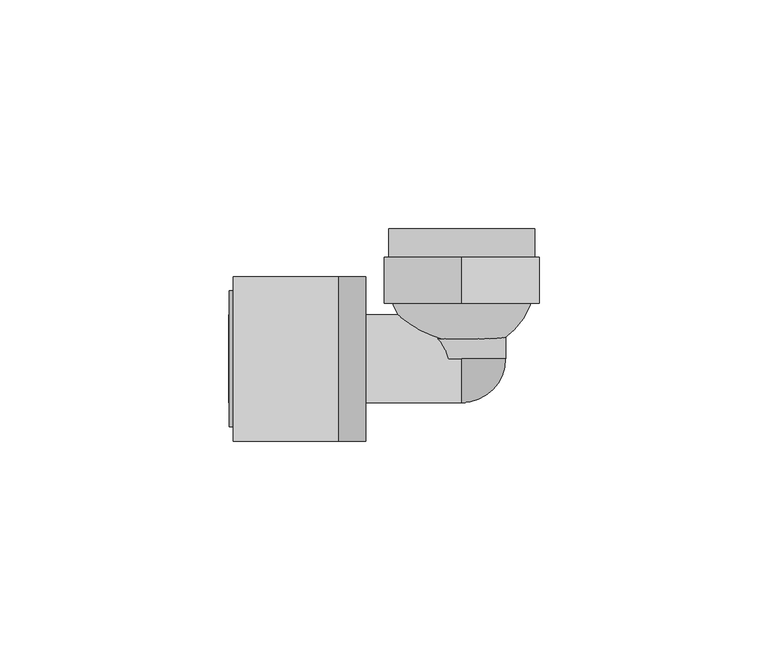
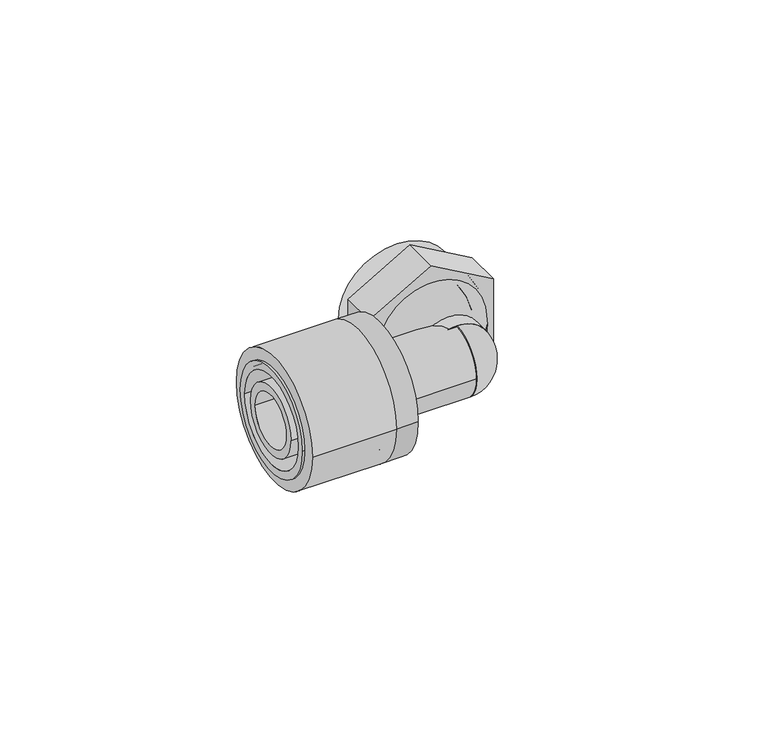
"""IFC4 building model written with IfcOpenShell, lengths in millimetres: pipe fitting geometry, FASTLOC_Elbow with female thread EX+ : FSL A internal AT."""

import ifcopenshell
import ifcopenshell.guid

model = None  # the IFC model being written
_history = None  # IfcOwnerHistory: only IFC2X3 demands one
_inside = {}  # id of a spatial element -> (the spatial element, [elements in it])
_under = {}  # id of a project, library or spatial element -> (it, [spatial elements below it])
_declared = {}  # id of a project -> (the project, [libraries it declares])
_typed = {}  # id of a type object -> (the type object, [elements of that type])
_made_of = {}  # id of a material, layer set ... -> (it, [elements and type objects made of it])


def new_model(schema):
    """Start an empty IFC model of exactly this schema.

    Asked for "IFC4X3", IfcOpenShell would pick the latest addendum, in which some entities
    have other attributes; the version numbers below select the first issue.
    IFC2X3 requires an IfcOwnerHistory on every rooted entity: one is made here for all.
    """
    global model, _history
    if schema == "IFC4X3":
        model = ifcopenshell.file(schema_version=(4, 3, 0, 0))
    else:
        model = ifcopenshell.file(schema=schema)
    _inside.clear()
    _under.clear()
    _declared.clear()
    _typed.clear()
    _made_of.clear()
    _history = None
    if model.schema == "IFC2X3":
        org = make("IfcOrganization", Name="unknown")
        user = make(
            "IfcPersonAndOrganization",
            ThePerson=make("IfcPerson", FamilyName="unknown"),
            TheOrganization=org,
        )
        app = make(
            "IfcApplication",
            ApplicationDeveloper=org,
            Version="unknown",
            ApplicationFullName="unknown",
            ApplicationIdentifier="unknown",
        )
        _history = make(
            "IfcOwnerHistory",
            OwningUser=user,
            OwningApplication=app,
            ChangeAction="ADDED",
            CreationDate=0,
        )
    return model


def make(cls, **values):
    """One entity of the class cls with the attributes given. An attribute that is None is left unset."""
    return model.create_entity(
        cls, **{name: value for name, value in values.items() if value is not None}
    )


def rooted(cls, **values):
    """An entity with a GlobalId (a new one), such as an element, a storey or a relation."""
    return make(cls, GlobalId=ifcopenshell.guid.new(), OwnerHistory=_history, **values)


def si_unit(unit_type, name, prefix=None):
    """IfcSIUnit, for example si_unit("LENGTHUNIT", "METRE", prefix="MILLI")."""
    return make("IfcSIUnit", UnitType=unit_type, Prefix=prefix, Name=name)


def assignment(units):
    """IfcUnitAssignment: the units of a project."""
    return None if units is None else make("IfcUnitAssignment", Units=units)


def point(xyz):
    """IfcCartesianPoint."""
    return None if xyz is None else make("IfcCartesianPoint", Coordinates=xyz)


def direction(xyz):
    """IfcDirection."""
    return None if xyz is None else make("IfcDirection", DirectionRatios=xyz)


def frame(location, z_axis=None, x_axis=None):
    """IfcAxis2Placement3D, a coordinate frame: its origin and axes. An axis left out is left unset."""
    return make(
        "IfcAxis2Placement3D",
        Location=point(location),
        Axis=direction(z_axis),
        RefDirection=direction(x_axis),
    )


def frame_2d(location, x_axis=None):
    """IfcAxis2Placement2D, a coordinate frame in the plane: its origin and x axis."""
    return make(
        "IfcAxis2Placement2D", Location=point(location), RefDirection=direction(x_axis)
    )


def origin():
    """The frame at (0, 0, 0) with its axes left unset."""
    return frame((0.0, 0.0, 0.0))


def origin_2d():
    """The frame at (0, 0) in the plane with its x axis left unset."""
    return frame_2d((0.0, 0.0))


def place(relative_to, where):
    """IfcLocalPlacement: puts the frame where relative to a parent placement (None: the world)."""
    return make(
        "IfcLocalPlacement", PlacementRelTo=relative_to, RelativePlacement=where
    )


def context(
    kind, dimensions, precision=None, world=None, true_north=None, identifier=None
):
    """IfcGeometricRepresentationContext, for example the 3D "Model" context."""
    return make(
        "IfcGeometricRepresentationContext",
        ContextIdentifier=identifier,
        ContextType=kind,
        CoordinateSpaceDimension=dimensions,
        Precision=precision,
        WorldCoordinateSystem=world,
        TrueNorth=true_north,
    )


def project(units=None, contexts=None):
    """IfcProject with its units and contexts."""
    return rooted(
        "IfcProject",
        Name="project",
        RepresentationContexts=contexts,
        UnitsInContext=assignment(units),
    )


def spatial(cls, under=None, at=None, **own):
    """A site, building, storey or space (cls), placed at a placement, below another one or the project."""
    s = rooted(cls, ObjectPlacement=at, **own)
    if under is not None:
        _under.setdefault(under.id(), (under, []))[1].append(s)
    return s


def polyline(points):
    """IfcPolyline through the points."""
    return make("IfcPolyline", Points=[point(p) for p in points])


def circle_curve(where, radius):
    """IfcCircle in the frame where."""
    return make("IfcCircle", Position=where, Radius=radius)


def ellipse_curve(where, semi_axis1, semi_axis2):
    """IfcEllipse in the frame where."""
    return make(
        "IfcEllipse", Position=where, SemiAxis1=semi_axis1, SemiAxis2=semi_axis2
    )


def trimmed(basis, trim1, trim2, sense, master):
    """IfcTrimmedCurve: the piece of a basis curve between two trims."""
    return make(
        "IfcTrimmedCurve",
        BasisCurve=basis,
        Trim1=trim1,
        Trim2=trim2,
        SenseAgreement=sense,
        MasterRepresentation=master,
    )


def segment(curve, same_sense, transition):
    """IfcCompositeCurveSegment."""
    return make(
        "IfcCompositeCurveSegment",
        Transition=transition,
        SameSense=same_sense,
        ParentCurve=curve,
    )


def composite_curve(segments, self_intersect=None):
    """IfcCompositeCurve: segments joined end to end."""
    return make("IfcCompositeCurve", Segments=segments, SelfIntersect=self_intersect)


def outline(outer, holes=None, kind="AREA"):
    """IfcArbitraryClosedProfileDef: a profile drawn as a closed curve; with holes, ...WithVoids."""
    if holes is None:
        return make("IfcArbitraryClosedProfileDef", ProfileType=kind, OuterCurve=outer)
    return make(
        "IfcArbitraryProfileDefWithVoids",
        ProfileType=kind,
        OuterCurve=outer,
        InnerCurves=holes,
    )


def extrude(swept, where, along, depth):
    """IfcExtrudedAreaSolid: the profile swept, set in the frame where, extruded along a direction by depth."""
    return make(
        "IfcExtrudedAreaSolid",
        SweptArea=swept,
        Position=where,
        ExtrudedDirection=direction(along),
        Depth=depth,
    )


def shape(context_of_items, identifier, shape_type, items):
    """IfcShapeRepresentation: the items that make up one representation, for example the "Body"."""
    return make(
        "IfcShapeRepresentation",
        ContextOfItems=context_of_items,
        RepresentationIdentifier=identifier,
        RepresentationType=shape_type,
        Items=items,
    )


def source(mapping_origin, context_of_items, identifier, shape_type, items):
    """IfcRepresentationMap: a shape defined once, which mapped items show again and again."""
    return make(
        "IfcRepresentationMap",
        MappingOrigin=mapping_origin,
        MappedRepresentation=shape(context_of_items, identifier, shape_type, items),
    )


def transform(
    local_origin,
    x_axis=None,
    y_axis=None,
    z_axis=None,
    scale=None,
    scale2=None,
    scale3=None,
    uniform=True,
):
    """IfcCartesianTransformationOperator3D, or its non-uniform kind. x_axis, y_axis, z_axis: its Axis1, 2, 3."""
    if uniform:
        return make(
            "IfcCartesianTransformationOperator3D",
            Axis1=direction(x_axis),
            Axis2=direction(y_axis),
            LocalOrigin=point(local_origin),
            Scale=scale,
            Axis3=direction(z_axis),
        )
    return make(
        "IfcCartesianTransformationOperator3DnonUniform",
        Axis1=direction(x_axis),
        Axis2=direction(y_axis),
        LocalOrigin=point(local_origin),
        Scale=scale,
        Axis3=direction(z_axis),
        Scale2=scale2,
        Scale3=scale3,
    )


def mapped(mapping_source, mapping_target):
    """IfcMappedItem: shows the shape of a source again, moved by a transform."""
    return make(
        "IfcMappedItem", MappingSource=mapping_source, MappingTarget=mapping_target
    )


def made_of(thing, what):
    """Note that an element or type object is made of a material, layer set ...; save() writes the relation."""
    if what is not None:
        _made_of.setdefault(what.id(), (what, []))[1].append(thing)
    return thing


def element(
    cls,
    number,
    at=None,
    inside=None,
    cuts=None,
    type_object=None,
    material=None,
    context=None,
    identifier="Body",
    shape_type=None,
    held_by="IfcProductDefinitionShape",
    body=None,
    shapes=None,
    **own,
):
    """One element of the class cls, such as IfcWall. Its Tag is "e" and its number.

    at: its placement. inside: the storey or other place that contains it. cuts: it is an
    opening in that element (IfcRelVoidsElement). A single representation is given by context,
    identifier, shape_type and body (its items); several are given by shapes. held_by: the class
    of the entity that holds the representations. save() writes the other relations.
    """
    e = rooted(cls, Tag="e%d" % number, ObjectPlacement=at, **own)
    if body is not None:
        shapes = [shape(context, identifier, shape_type, body)]
    if shapes is not None:
        e.Representation = make(held_by, Representations=shapes)
    if inside is not None:
        _inside.setdefault(inside.id(), (inside, []))[1].append(e)
    if cuts is not None:
        rooted(
            "IfcRelVoidsElement", RelatingBuildingElement=cuts, RelatedOpeningElement=e
        )
    if type_object is not None:
        _typed.setdefault(type_object.id(), (type_object, []))[1].append(e)
    return made_of(e, material)


def aggregate(whole, parts):
    """IfcRelAggregates: a whole, such as a stair, and the parts it consists of."""
    return rooted("IfcRelAggregates", RelatingObject=whole, RelatedObjects=parts)


def save(model, path):
    """Write the relations noted so far, then the file.

    IfcRelAggregates (storeys below a building ...), IfcRelContainedInSpatialStructure (elements
    in a storey), IfcRelDefinesByType, IfcRelAssociatesMaterial and IfcRelDeclares: one each for
    every whole, place, type object, material and project.
    """
    for whole, parts in _under.values():
        aggregate(whole, parts)
    for where, things in _inside.values():
        rooted(
            "IfcRelContainedInSpatialStructure",
            RelatedElements=things,
            RelatingStructure=where,
        )
    for kind, things in _typed.values():
        rooted("IfcRelDefinesByType", RelatedObjects=things, RelatingType=kind)
    for what, things in _made_of.values():
        rooted("IfcRelAssociatesMaterial", RelatedObjects=things, RelatingMaterial=what)
    for by, libraries in _declared.values():
        rooted("IfcRelDeclares", RelatingContext=by, RelatedDefinitions=libraries)
    model.write(path)


def plane_surface(at):
    """IfcPlane: the flat surface through the origin of the frame at, square to its z axis."""
    return make("IfcPlane", Position=at)


def cylinder_surface(at, radius):
    """IfcCylindricalSurface: all points at the distance radius from the z axis of the frame at."""
    return make("IfcCylindricalSurface", Position=at, Radius=radius)


def revolved_surface(curve, axis_point, axis_direction):
    """IfcSurfaceOfRevolution: the curve turned about the line through axis_point along axis_direction."""
    return make(
        "IfcSurfaceOfRevolution",
        SweptCurve=make("IfcArbitraryOpenProfileDef", ProfileType="CURVE", Curve=curve),
        AxisPosition=make("IfcAxis1Placement", Location=point(axis_point), Axis=direction(axis_direction)),
    )


def advanced_brep(points, edges, surfaces, faces):
    """IfcAdvancedBrep: a solid bounded by faces that lie on surfaces and meet in shared edges.

    An edge is (start, end): straight between two places in points (the first is 0);
    or (start, end, curve); or (start, end, curve, False) where it runs against its curve.
    A face is (place in surfaces, loops), or (place, loops, False) where it looks against
    its surface's normal. A loop lists edges by number (the first is 1), with a minus sign
    where the edge is run from its end to its start. The first loop is the outer one.
    """
    corners = [point(p) for p in points]
    vertices = [make("IfcVertexPoint", VertexGeometry=c) for c in corners]
    made = []
    for start, end, *more in edges:
        made.append(
            make(
                "IfcEdgeCurve",
                EdgeStart=vertices[start],
                EdgeEnd=vertices[end],
                EdgeGeometry=more[0] if more else make("IfcPolyline", Points=[corners[start], corners[end]]),
                SameSense=more[1] if len(more) > 1 else True,
            )
        )
    hull = []
    for where, loops, *sense in faces:
        bounds = []
        for j, loop in enumerate(loops):
            ring = [make("IfcOrientedEdge", EdgeElement=made[abs(k) - 1], Orientation=k > 0) for k in loop]
            bounds.append(
                make(
                    "IfcFaceOuterBound" if j == 0 else "IfcFaceBound",
                    Bound=make("IfcEdgeLoop", EdgeList=ring),
                    Orientation=True,
                )
            )
        hull.append(make("IfcAdvancedFace", Bounds=bounds, FaceSurface=surfaces[where], SameSense=sense[0] if sense else True))
    return make("IfcAdvancedBrep", Outer=make("IfcClosedShell", CfsFaces=hull))


def pipe_fitting_eea56ca5(model_context):
    return source(origin(), model_context, "Body", "SolidModel", [
        extrude(outline(composite_curve([segment(trimmed(circle_curve(origin_2d(), 18.0), [point((18.0, 0.0))], [point((-18.0, 0.0))], False, "CARTESIAN"), True, "CONTINUOUS"), segment(trimmed(circle_curve(origin_2d(), 18.0), [point((-18.0, 0.0))], [point((18.0, 0.0))], False, "CARTESIAN"), True, "CONTINUOUS")], self_intersect=False), holes=[composite_curve([segment(trimmed(circle_curve(origin_2d(), 13.5), [point((13.5, 0.0))], [point((-13.5, 0.0))], True, "CARTESIAN"), True, "CONTINUOUS"), segment(trimmed(circle_curve(origin_2d(), 13.5), [point((-13.5, 0.0))], [point((13.5, 0.0))], True, "CARTESIAN"), True, "CONTINUOUS")], self_intersect=False)]), frame((-50.0, 0.0, 0.0), z_axis=(1.0, 0.0, 0.0), x_axis=(0.0, 1.0, 0.0)), (0.0, 0.0, 1.0), 23.0),
        advanced_brep(
        [(-27.0, -18.0, 0.0), (-27.0, 18.0, 0.0), (-21.0, 18.0, 0.0), (-21.0, -18.0, 0.0), (-50.8, -14.85, 0.0), (-50.8, 14.85, 0.0), (-27.0, 14.85, 0.0), (-27.0, -14.85, 0.0), (-21.0, -12.65, 0.0), (-21.0, 12.65, 0.0), (-50.8, 12.65, 0.0), (-50.8, -12.65, 0.0)],
        [
            (0, 1, circle_curve(frame((-27.0, 0.0, 0.0), z_axis=(1.0, 0.0, 0.0), x_axis=(0.0, 1.0, 0.0)), 18.0)),
            (1, 2),
            (2, 3, circle_curve(frame((-21.0, 0.0, 0.0), z_axis=(-1.0, 0.0, 0.0), x_axis=(0.0, 1.0, 0.0)), 18.0)),
            (3, 0),
            (4, 5, circle_curve(frame((-50.8, 0.0, 0.0), z_axis=(1.0, 0.0, 0.0), x_axis=(0.0, 1.0, 0.0)), 14.85)),
            (5, 6),
            (6, 7, circle_curve(frame((-27.0, 0.0, 0.0), z_axis=(-1.0, 0.0, 0.0), x_axis=(0.0, 1.0, 0.0)), 14.85)),
            (7, 4),
            (8, 9, circle_curve(frame((-21.0, 0.0, 0.0), z_axis=(1.0, 0.0, 0.0), x_axis=(0.0, 1.0, 0.0)), 12.65)),
            (9, 10),
            (10, 11, circle_curve(frame((-50.8, 0.0, 0.0), z_axis=(-1.0, 0.0, 0.0), x_axis=(0.0, 1.0, 0.0)), 12.65)),
            (11, 8),
            (1, 0, circle_curve(frame((-27.0, 0.0, 0.0), z_axis=(1.0, 0.0, 0.0), x_axis=(0.0, -1.0, 0.0)), 18.0)),
            (3, 2, circle_curve(frame((-21.0, 0.0, 0.0), z_axis=(-1.0, 0.0, 0.0), x_axis=(0.0, -1.0, 0.0)), 18.0)),
            (6, 7, circle_curve(frame((-27.0, 0.0, 0.0), z_axis=(1.0, 0.0, 0.0), x_axis=(0.0, -1.0, 0.0)), 14.85)),
            (5, 4, circle_curve(frame((-50.8, 0.0, 0.0), z_axis=(1.0, 0.0, 0.0), x_axis=(0.0, -1.0, 0.0)), 14.85)),
            (10, 11, circle_curve(frame((-50.8, 0.0, 0.0), z_axis=(1.0, 0.0, 0.0), x_axis=(0.0, -1.0, 0.0)), 12.65)),
            (9, 8, circle_curve(frame((-21.0, 0.0, 0.0), z_axis=(1.0, 0.0, 0.0), x_axis=(0.0, -1.0, 0.0)), 12.65)),
        ],
        [
            cylinder_surface(frame((-21.0, 0.0, 0.0), z_axis=(-1.0, 0.0, 0.0), x_axis=(0.0, 1.0, 0.0)), 18.0),
            cylinder_surface(frame((-21.0, 0.0, 0.0), z_axis=(-1.0, 0.0, 0.0), x_axis=(0.0, 1.0, 0.0)), 14.85),
            revolved_surface(polyline([(-50.8, 12.65, 0.0), (-21.0, 12.65, 0.0)]), (-21.0, 0.0, 0.0), (-1.0, 0.0, 0.0)),
            cylinder_surface(frame((-21.0, 0.0, 0.0), z_axis=(-1.0, 0.0, 0.0), x_axis=(0.0, -1.0, 0.0)), 18.0),
            plane_surface(frame((-27.0, 0.0, 0.0), z_axis=(-1.0, 0.0, 0.0), x_axis=(0.0, -1.0, 0.0))),
            cylinder_surface(frame((-21.0, 0.0, 0.0), z_axis=(-1.0, 0.0, 0.0), x_axis=(0.0, -1.0, 0.0)), 14.85),
            plane_surface(frame((-50.8, 0.0, 0.0), z_axis=(-1.0, 0.0, 0.0), x_axis=(0.0, -1.0, 0.0))),
            revolved_surface(polyline([(-50.8, -12.65, 0.0), (-21.0, -12.65, 0.0)]), (-21.0, 0.0, 0.0), (-1.0, 0.0, 0.0)),
            plane_surface(frame((-21.0, 0.0, 0.0), z_axis=(1.0, 0.0, 0.0), x_axis=(0.0, -1.0, 0.0))),
        ],
        [
            (0, [[1, 2, 3, 4]]),
            (1, [[5, 6, 7, 8]]),
            (2, [[9, 10, 11, 12]]),
            (3, [[13, -4, 14, -2]]),
            (4, [[-13, -1], [15, -7]]),
            (5, [[16, -8, -15, -6]]),
            (6, [[-16, -5], [17, -11]]),
            (7, [[18, -12, -17, -10]]),
            (8, [[-14, -3], [-18, -9]]),
        ],
    ),
        advanced_brep(
        [(0.0, 0.0, 9.6), (0.0, 0.0, 4.8), (0.0, -4.8, 0.0), (0.0, -9.6, 0.0), (0.0, 0.0, -9.6), (0.0, 0.0, -4.8)],
        [
            (0, 1),
            (1, 2, circle_curve(frame((0.0, 0.0, 0.0), z_axis=(1.0, 0.0, 0.0), x_axis=(0.0, 0.0, 1.0)), 4.8)),
            (2, 3),
            (3, 0, circle_curve(frame((0.0, 0.0, 0.0), z_axis=(-1.0, 0.0, 0.0), x_axis=(0.0, 0.0, 1.0)), 9.6)),
            (4, 3, circle_curve(frame((0.0, 0.0, 0.0), z_axis=(-1.0, 0.0, 0.0), x_axis=(0.0, 0.0, -1.0)), 9.6)),
            (2, 5, circle_curve(frame((0.0, 0.0, 0.0), z_axis=(1.0, 0.0, 0.0), x_axis=(0.0, 0.0, -1.0)), 4.8)),
            (5, 4),
            (5, 1, circle_curve(frame((0.0, 0.0, 0.0), z_axis=(0.0, -1.0, 0.0), x_axis=(0.0, 0.0, 1.0)), 4.8)),
            (0, 4, circle_curve(frame((0.0, 0.0, 0.0), z_axis=(0.0, 1.0, 0.0), x_axis=(0.0, 0.0, 1.0)), 9.6)),
        ],
        [
            plane_surface(frame((0.0, 0.0, 0.0), z_axis=(-1.0, 0.0, 0.0), x_axis=(0.0, 0.0, 1.0))),
            plane_surface(frame((0.0, 0.0, 0.0), z_axis=(-1.0, 0.0, 0.0), x_axis=(0.0, 0.0, -1.0))),
            plane_surface(frame((0.0, 0.0, 0.0), z_axis=(0.0, 1.0, 0.0), x_axis=(0.0, 0.0, 1.0))),
            revolved_surface(trimmed(ellipse_curve(frame((0.0, 0.0, 0.0), z_axis=(1.0, 0.0, 0.0), x_axis=(0.0, 0.0, 1.0)), 4.8, 4.8), [point((0.0, 0.0, 4.8))], [point((0.0, -4.8, 0.0))], True, "CARTESIAN"), (0.0, 0.0, 0.0), (0.0, 1.0, 0.0)),
            revolved_surface(trimmed(ellipse_curve(frame((0.0, 0.0, 0.0), z_axis=(-1.0, 0.0, 0.0), x_axis=(0.0, 0.0, 1.0)), 9.6, 9.6), [point((0.0, -9.6, 0.0))], [point((0.0, 0.0, 9.6))], True, "CARTESIAN"), (0.0, 0.0, 0.0), (0.0, 1.0, 0.0)),
        ],
        [
            (0, [[1, 2, 3, 4]]),
            (1, [[5, -3, 6, 7]]),
            (2, [[8, -1, 9, -7]]),
            (3, [[-2, -8, -6]]),
            (4, [[-9, -4, -5]]),
        ],
    ),
        extrude(outline(polyline([(-9.8149546, 17.0), (9.8149546, 17.0), (19.6299092, 0.0), (9.8149546, -17.0), (-9.8149546, -17.0), (-19.6299092, 0.0), (-9.8149546, 17.0)])), frame((0.0, 12.2, 0.0), z_axis=(0.0, 1.0, 0.0), x_axis=(0.0, 0.0, 1.0)), (0.0, 0.0, 1.0), 10.0),
        advanced_brep(
        [(0.5, 1.5078144, 0.0), (-0.5, 1.5078144, 0.0), (-16.0, 17.5, 0.0), (16.0, 17.5, 0.0), (0.5, 5.010004, 0.0), (-0.5, 5.010004, 0.0), (12.5, 17.5, 0.0), (-12.5, 17.5, 0.0), (12.5, 28.5, 0.0), (-12.5, 28.5, 0.0), (-16.0, 28.5, 0.0), (16.0, 28.5, 0.0)],
        [
            (0, 1, circle_curve(frame((0.0, 1.5078144, 0.0), z_axis=(0.0, 1.0, 0.0), x_axis=(-1.0, 0.0, 0.0)), 0.5)),
            (1, 2, circle_curve(frame((0.0, 17.5, 0.0), z_axis=(0.0, 0.0, -1.0), x_axis=(0.0, 1.0, 0.0)), 16.0)),
            (2, 3, circle_curve(frame((0.0, 17.5, 0.0), z_axis=(0.0, -1.0, 0.0), x_axis=(-1.0, 0.0, 0.0)), 16.0)),
            (3, 0, circle_curve(frame((0.0, 17.5, 0.0), z_axis=(0.0, 0.0, -1.0), x_axis=(0.0, 1.0, 0.0)), 16.0)),
            (4, 5, circle_curve(frame((0.0, 5.010004, 0.0), z_axis=(0.0, 1.0, 0.0), x_axis=(-1.0, 0.0, 0.0)), 0.5)),
            (5, 1),
            (0, 4),
            (6, 7, circle_curve(frame((0.0, 17.5, 0.0), z_axis=(0.0, 1.0, 0.0), x_axis=(-1.0, 0.0, 0.0)), 12.5)),
            (7, 5, circle_curve(frame((0.0, 17.5, 0.0), z_axis=(0.0, 0.0, 1.0), x_axis=(0.0, 1.0, 0.0)), 12.5)),
            (4, 6, circle_curve(frame((0.0, 17.5, 0.0), z_axis=(0.0, 0.0, 1.0), x_axis=(0.0, 1.0, 0.0)), 12.5)),
            (8, 9, circle_curve(frame((0.0, 28.5, 0.0), z_axis=(0.0, 1.0, 0.0), x_axis=(-1.0, 0.0, 0.0)), 12.5)),
            (9, 7),
            (6, 8),
            (2, 10),
            (10, 11, circle_curve(frame((0.0, 28.5, 0.0), z_axis=(0.0, -1.0, 0.0), x_axis=(-1.0, 0.0, 0.0)), 16.0)),
            (11, 3),
            (1, 0, circle_curve(frame((0.0, 1.5078144, 0.0), z_axis=(0.0, 1.0, 0.0), x_axis=(1.0, 0.0, 0.0)), 0.5)),
            (3, 2, circle_curve(frame((0.0, 17.5, 0.0), z_axis=(0.0, -1.0, 0.0), x_axis=(1.0, 0.0, 0.0)), 16.0)),
            (5, 4, circle_curve(frame((0.0, 5.010004, 0.0), z_axis=(0.0, 1.0, 0.0), x_axis=(1.0, 0.0, 0.0)), 0.5)),
            (7, 6, circle_curve(frame((0.0, 17.5, 0.0), z_axis=(0.0, 1.0, 0.0), x_axis=(1.0, 0.0, 0.0)), 12.5)),
            (9, 8, circle_curve(frame((0.0, 28.5, 0.0), z_axis=(0.0, 1.0, 0.0), x_axis=(1.0, 0.0, 0.0)), 12.5)),
            (10, 11, circle_curve(frame((0.0, 28.5, 0.0), z_axis=(0.0, 1.0, 0.0), x_axis=(1.0, 0.0, 0.0)), 16.0)),
        ],
        [
            revolved_surface(trimmed(ellipse_curve(frame((0.0, 17.5, 0.0), z_axis=(0.0, 0.0, 1.0), x_axis=(0.0, 1.0, 0.0)), 16.0, 16.0), [point((-16.0, 17.5, 0.0))], [point((-0.5, 1.5078144, 0.0))], True, "CARTESIAN"), (0.0, 12.2, 0.0), (0.0, -1.0, 0.0)),
            revolved_surface(polyline([(-0.5, 1.5078144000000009, 0.0), (-0.5, 5.010004, 0.0)]), (0.0, 12.2, 0.0), (0.0, -1.0, 0.0)),
            revolved_surface(trimmed(ellipse_curve(frame((0.0, 17.5, 0.0), z_axis=(0.0, 0.0, -1.0), x_axis=(0.0, 1.0, 0.0)), 12.5, 12.5), [point((-0.5, 5.010004, 0.0))], [point((-12.5, 17.5, 0.0))], True, "CARTESIAN"), (0.0, 12.2, 0.0), (0.0, -1.0, 0.0)),
            revolved_surface(polyline([(-12.5, 17.5, 0.0), (-12.5, 28.5, 0.0)]), (0.0, 12.2, 0.0), (0.0, -1.0, 0.0)),
            cylinder_surface(frame((0.0, 12.2, 0.0), z_axis=(0.0, -1.0, 0.0), x_axis=(-1.0, 0.0, 0.0)), 16.0),
            revolved_surface(trimmed(ellipse_curve(frame((0.0, 17.5, 0.0), z_axis=(0.0, 0.0, -1.0), x_axis=(0.0, 1.0, 0.0)), 16.0, 16.0), [point((16.0, 17.5, 0.0))], [point((0.5, 1.5078144, 0.0))], True, "CARTESIAN"), (0.0, 12.2, 0.0), (0.0, -1.0, 0.0)),
            revolved_surface(polyline([(0.5, 1.5078144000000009, 0.0), (0.5, 5.010004, 0.0)]), (0.0, 12.2, 0.0), (0.0, -1.0, 0.0)),
            revolved_surface(trimmed(ellipse_curve(frame((0.0, 17.5, 0.0), z_axis=(0.0, 0.0, 1.0), x_axis=(0.0, 1.0, 0.0)), 12.5, 12.5), [point((0.5, 5.010004, 0.0))], [point((12.5, 17.5, 0.0))], True, "CARTESIAN"), (0.0, 12.2, 0.0), (0.0, -1.0, 0.0)),
            revolved_surface(polyline([(12.5, 17.5, 0.0), (12.5, 28.5, 0.0)]), (0.0, 12.2, 0.0), (0.0, -1.0, 0.0)),
            plane_surface(frame((0.0, 28.5, 0.0), z_axis=(0.0, 1.0, 0.0), x_axis=(1.0, 0.0, 0.0))),
            cylinder_surface(frame((0.0, 12.2, 0.0), z_axis=(0.0, -1.0, 0.0), x_axis=(1.0, 0.0, 0.0)), 16.0),
        ],
        [
            (0, [[1, 2, 3, 4]]),
            (1, [[5, 6, -1, 7]]),
            (2, [[8, 9, -5, 10]]),
            (3, [[11, 12, -8, 13]]),
            (4, [[-3, 14, 15, 16]]),
            (5, [[17, -4, 18, -2]]),
            (6, [[19, -7, -17, -6]]),
            (7, [[20, -10, -19, -9]]),
            (8, [[21, -13, -20, -12]]),
            (9, [[22, -15], [-21, -11]]),
            (10, [[-18, -16, -22, -14]]),
        ],
    ),
        extrude(outline(composite_curve([segment(trimmed(circle_curve(origin_2d(), 9.6), [point((0.0, -9.6))], [point((0.0, 9.6))], False, "CARTESIAN"), True, "CONTINUOUS"), segment(trimmed(circle_curve(origin_2d(), 9.6), [point((0.0, 9.6))], [point((0.0, -9.6))], False, "CARTESIAN"), True, "CONTINUOUS")], self_intersect=False), holes=[composite_curve([segment(trimmed(circle_curve(origin_2d(), 7.35), [point((0.0, -7.35))], [point((0.0, 7.35))], True, "CARTESIAN"), True, "CONTINUOUS"), segment(trimmed(circle_curve(origin_2d(), 7.35), [point((0.0, 7.35))], [point((0.0, -7.35))], True, "CARTESIAN"), True, "CONTINUOUS")], self_intersect=False)]), frame((0.0, 0.0, 0.0), z_axis=(0.0, 1.0, 0.0), x_axis=(0.0, 0.0, 1.0)), (0.0, 0.0, 1.0), 12.2),
        advanced_brep(
        [(-27.0, 9.6, 0.0), (-27.0, -9.6, 0.0), (-51.0, -9.6, 0.0), (-51.0, 9.6, 0.0), (-24.2, 11.1, 0.0), (-24.2, -11.1, 0.0), (-27.0, -11.1, 0.0), (-27.0, 11.1, 0.0), (0.0, 9.6, 0.0), (0.0, -9.6, 0.0), (-24.2, -9.6, 0.0), (-24.2, 9.6, 0.0), (-51.0, 7.35, 0.0), (-51.0, -7.35, 0.0), (0.0, -7.35, 0.0), (0.0, 7.35, 0.0)],
        [
            (0, 1, circle_curve(frame((-27.0, 0.0, 0.0), z_axis=(-1.0, 0.0, 0.0), x_axis=(0.0, -1.0, 0.0)), 9.6)),
            (1, 2),
            (2, 3, circle_curve(frame((-51.0, 0.0, 0.0), z_axis=(1.0, 0.0, 0.0), x_axis=(0.0, -1.0, 0.0)), 9.6)),
            (3, 0),
            (4, 5, circle_curve(frame((-24.2, 0.0, 0.0), z_axis=(-1.0, 0.0, 0.0), x_axis=(0.0, -1.0, 0.0)), 11.1)),
            (5, 6),
            (6, 7, circle_curve(frame((-27.0, 0.0, 0.0), z_axis=(1.0, 0.0, 0.0), x_axis=(0.0, -1.0, 0.0)), 11.1)),
            (7, 4),
            (8, 9, circle_curve(frame((0.0, 0.0, 0.0), z_axis=(-1.0, 0.0, 0.0), x_axis=(0.0, -1.0, 0.0)), 9.6)),
            (9, 10),
            (10, 11, circle_curve(frame((-24.2, 0.0, 0.0), z_axis=(1.0, 0.0, 0.0), x_axis=(0.0, -1.0, 0.0)), 9.6)),
            (11, 8),
            (12, 13, circle_curve(frame((-51.0, 0.0, 0.0), z_axis=(-1.0, 0.0, 0.0), x_axis=(0.0, -1.0, 0.0)), 7.35)),
            (13, 14),
            (14, 15, circle_curve(frame((0.0, 0.0, 0.0), z_axis=(1.0, 0.0, 0.0), x_axis=(0.0, -1.0, 0.0)), 7.35)),
            (15, 12),
            (2, 3, circle_curve(frame((-51.0, 0.0, 0.0), z_axis=(-1.0, 0.0, 0.0), x_axis=(0.0, 1.0, 0.0)), 9.6)),
            (12, 13, circle_curve(frame((-51.0, 0.0, 0.0), z_axis=(1.0, 0.0, 0.0), x_axis=(0.0, 1.0, 0.0)), 7.35)),
            (1, 0, circle_curve(frame((-27.0, 0.0, 0.0), z_axis=(-1.0, 0.0, 0.0), x_axis=(0.0, 1.0, 0.0)), 9.6)),
            (6, 7, circle_curve(frame((-27.0, 0.0, 0.0), z_axis=(-1.0, 0.0, 0.0), x_axis=(0.0, 1.0, 0.0)), 11.1)),
            (5, 4, circle_curve(frame((-24.2, 0.0, 0.0), z_axis=(-1.0, 0.0, 0.0), x_axis=(0.0, 1.0, 0.0)), 11.1)),
            (10, 11, circle_curve(frame((-24.2, 0.0, 0.0), z_axis=(-1.0, 0.0, 0.0), x_axis=(0.0, 1.0, 0.0)), 9.6)),
            (9, 8, circle_curve(frame((0.0, 0.0, 0.0), z_axis=(-1.0, 0.0, 0.0), x_axis=(0.0, 1.0, 0.0)), 9.6)),
            (14, 15, circle_curve(frame((0.0, 0.0, 0.0), z_axis=(-1.0, 0.0, 0.0), x_axis=(0.0, 1.0, 0.0)), 7.35)),
        ],
        [
            cylinder_surface(frame((0.0, 0.0, 0.0), z_axis=(1.0, 0.0, 0.0), x_axis=(0.0, -1.0, 0.0)), 9.6),
            cylinder_surface(frame((0.0, 0.0, 0.0), z_axis=(1.0, 0.0, 0.0), x_axis=(0.0, -1.0, 0.0)), 11.1),
            revolved_surface(polyline([(0.0, -7.35, 0.0), (-51.0, -7.35, 0.0)]), (0.0, 0.0, 0.0), (1.0, 0.0, 0.0)),
            plane_surface(frame((-51.0, 0.0, 0.0), z_axis=(-1.0, 0.0, 0.0), x_axis=(0.0, 1.0, 0.0))),
            cylinder_surface(frame((0.0, 0.0, 0.0), z_axis=(1.0, 0.0, 0.0), x_axis=(0.0, 1.0, 0.0)), 9.6),
            plane_surface(frame((-27.0, 0.0, 0.0), z_axis=(-1.0, 0.0, 0.0), x_axis=(0.0, 1.0, 0.0))),
            cylinder_surface(frame((0.0, 0.0, 0.0), z_axis=(1.0, 0.0, 0.0), x_axis=(0.0, 1.0, 0.0)), 11.1),
            plane_surface(frame((-24.2, 0.0, 0.0), z_axis=(1.0, 0.0, 0.0), x_axis=(0.0, 1.0, 0.0))),
            plane_surface(frame((0.0, 0.0, 0.0), z_axis=(1.0, 0.0, 0.0), x_axis=(0.0, 1.0, 0.0))),
            revolved_surface(polyline([(0.0, 7.35, 0.0), (-51.0, 7.35, 0.0)]), (0.0, 0.0, 0.0), (1.0, 0.0, 0.0)),
        ],
        [
            (0, [[1, 2, 3, 4]]),
            (1, [[5, 6, 7, 8]]),
            (0, [[9, 10, 11, 12]]),
            (2, [[13, 14, 15, 16]]),
            (3, [[17, -3], [18, -13]]),
            (4, [[19, -4, -17, -2]]),
            (5, [[20, -7], [-19, -1]]),
            (6, [[21, -8, -20, -6]]),
            (7, [[-21, -5], [22, -11]]),
            (4, [[23, -12, -22, -10]]),
            (8, [[-23, -9], [24, -15]]),
            (9, [[-18, -16, -24, -14]]),
        ],
    ),
    ])


if __name__ == "__main__":
    model = new_model("IFC4")
    model_context = context("Model", 3, world=origin())
    ifc_project = project(units=[si_unit("LENGTHUNIT", "METRE", prefix="MILLI")], contexts=[model_context])
    site = spatial("IfcSite", under=ifc_project)
    building = spatial("IfcBuilding", under=site)
    placement = place(None, origin())
    pipe_fitting_shape = pipe_fitting_eea56ca5(model_context)
    element("IfcPipeFitting", 1, ObjectType="FASTLOC_Elbow with female thread EX+ : FSL A internal AT", at=placement, inside=building, context=model_context, shape_type="MappedRepresentation", body=[
        mapped(pipe_fitting_shape, transform((0.0, 0.0, 0.0), x_axis=(1.0, 0.0, 0.0), y_axis=(0.0, 1.0, 0.0), z_axis=(0.0, 0.0, 1.0))),
    ])
    save(model, "model.ifc")
